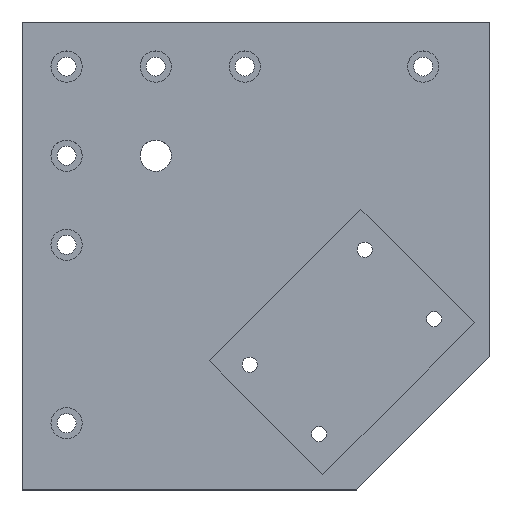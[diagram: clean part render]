
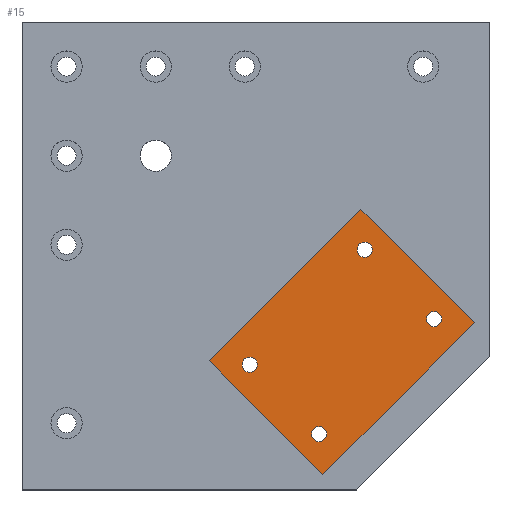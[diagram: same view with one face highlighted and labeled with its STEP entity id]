
A CAD part, top view. The second image highlights one B-rep face of the part: STEP entity #15.
In plain terms, the highlighted planar face has unit normal (0, 0, 1).
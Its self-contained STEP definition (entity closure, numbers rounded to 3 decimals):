
#15 = ADVANCED_FACE ( 'NONE', ( #1016, #615, #1171, #429, #303 ), #1005, .T. ) ;
#19 = VERTEX_POINT ( 'NONE', #320 ) ;
#34 = VERTEX_POINT ( 'NONE', #1571 ) ;
#54 = CIRCLE ( 'NONE', #783, 3.4 ) ;
#123 = CIRCLE ( 'NONE', #337, 3.4 ) ;
#128 = EDGE_CURVE ( 'NONE', #1595, #19, #1356, .T. ) ;
#134 = CARTESIAN_POINT ( 'NONE',  ( -2.81, -48.809, 3.5 ) ) ;
#143 = CARTESIAN_POINT ( 'NONE',  ( 79.922, -28.303, 3.5 ) ) ;
#154 = VERTEX_POINT ( 'NONE', #1772 ) ;
#173 = DIRECTION ( 'NONE',  ( 0.707, 0.707, 0. ) ) ;
#190 = VERTEX_POINT ( 'NONE', #1642 ) ;
#233 = DIRECTION ( 'NONE',  ( 0.707, -0.707, 0. ) ) ;
#266 = ORIENTED_EDGE ( 'NONE', *, *, #887, .T. ) ;
#270 = EDGE_CURVE ( 'NONE', #1609, #1415, #54, .T. ) ;
#275 = ORIENTED_EDGE ( 'NONE', *, *, #600, .T. ) ;
#303 = FACE_OUTER_BOUND ( 'NONE', #747, .T. ) ;
#320 = CARTESIAN_POINT ( 'NONE',  ( 47.112, 20.912, 3.5 ) ) ;
#337 = AXIS2_PLACEMENT_3D ( 'NONE', #1856, #446, #1041 ) ;
#359 = ORIENTED_EDGE ( 'NONE', *, *, #547, .F. ) ;
#393 = VECTOR ( 'NONE', #1790, 1000. ) ;
#394 = LINE ( 'NONE', #1097, #1022 ) ;
#429 = FACE_BOUND ( 'NONE', #978, .T. ) ;
#446 = DIRECTION ( 'NONE',  ( 0., 0., 1. ) ) ;
#451 = CIRCLE ( 'NONE', #518, 3.4 ) ;
#469 = DIRECTION ( 'NONE',  ( 1., 0., 0. ) ) ;
#489 = CIRCLE ( 'NONE', #1540, 3.4 ) ;
#518 = AXIS2_PLACEMENT_3D ( 'NONE', #1260, #1281, #984 ) ;
#547 = EDGE_CURVE ( 'NONE', #1313, #154, #1211, .T. ) ;
#581 = DIRECTION ( 'NONE',  ( 0., 0., 1. ) ) ;
#595 = CARTESIAN_POINT ( 'NONE',  ( 83.322, -28.303, 3.5 ) ) ;
#600 = EDGE_CURVE ( 'NONE', #1499, #1595, #936, .T. ) ;
#615 = FACE_BOUND ( 'NONE', #1495, .T. ) ;
#659 = EDGE_LOOP ( 'NONE', ( #359, #1798 ) ) ;
#747 = EDGE_LOOP ( 'NONE', ( #1761, #1245, #266, #275 ) ) ;
#759 = DIRECTION ( 'NONE',  ( 0., 0., 1. ) ) ;
#780 = DIRECTION ( 'NONE',  ( 1., 0., 0. ) ) ;
#783 = AXIS2_PLACEMENT_3D ( 'NONE', #1668, #1832, #1426 ) ;
#850 = CIRCLE ( 'NONE', #1423, 3.4 ) ;
#863 = DIRECTION ( 'NONE',  ( 0., 0., 1. ) ) ;
#877 = AXIS2_PLACEMENT_3D ( 'NONE', #134, #1007, #1721 ) ;
#886 = CARTESIAN_POINT ( 'NONE',  ( 0., 0., 3.5 ) ) ;
#887 = EDGE_CURVE ( 'NONE', #190, #1499, #394, .T. ) ;
#927 = ORIENTED_EDGE ( 'NONE', *, *, #1240, .F. ) ;
#929 = CARTESIAN_POINT ( 'NONE',  ( 98.024, -30., 3.5 ) ) ;
#936 = LINE ( 'NONE', #1778, #1703 ) ;
#944 = CARTESIAN_POINT ( 'NONE',  ( 28.303, -79.922, 3.5 ) ) ;
#950 = EDGE_CURVE ( 'NONE', #1833, #982, #1678, .T. ) ;
#951 = EDGE_CURVE ( 'NONE', #19, #190, #1737, .T. ) ;
#962 = AXIS2_PLACEMENT_3D ( 'NONE', #886, #1435, #1314 ) ;
#971 = AXIS2_PLACEMENT_3D ( 'NONE', #1591, #863, #469 ) ;
#978 = EDGE_LOOP ( 'NONE', ( #1399, #1283 ) ) ;
#982 = VERTEX_POINT ( 'NONE', #1188 ) ;
#984 = DIRECTION ( 'NONE',  ( 1., 0., 0. ) ) ;
#1005 = PLANE ( 'NONE',  #962 ) ;
#1007 = DIRECTION ( 'NONE',  ( 0., 0., 1. ) ) ;
#1010 = EDGE_CURVE ( 'NONE', #34, #1420, #489, .T. ) ;
#1011 = DIRECTION ( 'NONE',  ( 1., 0., 0. ) ) ;
#1016 = FACE_BOUND ( 'NONE', #659, .T. ) ;
#1022 = VECTOR ( 'NONE', #233, 1000. ) ;
#1034 = CARTESIAN_POINT ( 'NONE',  ( 47.112, 20.912, 3.5 ) ) ;
#1041 = DIRECTION ( 'NONE',  ( 1., 0., 0. ) ) ;
#1044 = DIRECTION ( 'NONE',  ( -0.707, -0.707, 0. ) ) ;
#1054 = ORIENTED_EDGE ( 'NONE', *, *, #1725, .F. ) ;
#1097 = CARTESIAN_POINT ( 'NONE',  ( -20.912, -47.112, 3.5 ) ) ;
#1171 = FACE_BOUND ( 'NONE', #1539, .T. ) ;
#1188 = CARTESIAN_POINT ( 'NONE',  ( 0.59, -48.809, 3.5 ) ) ;
#1211 = CIRCLE ( 'NONE', #1648, 3.4 ) ;
#1216 = VECTOR ( 'NONE', #1044, 1000. ) ;
#1233 = DIRECTION ( 'NONE',  ( 1., 0., 0. ) ) ;
#1240 = EDGE_CURVE ( 'NONE', #1420, #34, #451, .T. ) ;
#1245 = ORIENTED_EDGE ( 'NONE', *, *, #951, .T. ) ;
#1260 = CARTESIAN_POINT ( 'NONE',  ( 79.922, -28.303, 3.5 ) ) ;
#1267 = CARTESIAN_POINT ( 'NONE',  ( 45.409, 2.81, 3.5 ) ) ;
#1281 = DIRECTION ( 'NONE',  ( 0., 0., 1. ) ) ;
#1283 = ORIENTED_EDGE ( 'NONE', *, *, #1317, .F. ) ;
#1301 = CARTESIAN_POINT ( 'NONE',  ( 52.209, 2.81, 3.5 ) ) ;
#1303 = CIRCLE ( 'NONE', #877, 3.4 ) ;
#1313 = VERTEX_POINT ( 'NONE', #1446 ) ;
#1314 = DIRECTION ( 'NONE',  ( 1., 0., 0. ) ) ;
#1317 = EDGE_CURVE ( 'NONE', #1415, #1609, #123, .T. ) ;
#1343 = DIRECTION ( 'NONE',  ( 0., 0., 1. ) ) ;
#1356 = LINE ( 'NONE', #929, #393 ) ;
#1375 = CARTESIAN_POINT ( 'NONE',  ( 28.303, -79.922, 3.5 ) ) ;
#1399 = ORIENTED_EDGE ( 'NONE', *, *, #270, .F. ) ;
#1415 = VERTEX_POINT ( 'NONE', #1301 ) ;
#1420 = VERTEX_POINT ( 'NONE', #595 ) ;
#1423 = AXIS2_PLACEMENT_3D ( 'NONE', #944, #759, #780 ) ;
#1426 = DIRECTION ( 'NONE',  ( 1., 0., 0. ) ) ;
#1435 = DIRECTION ( 'NONE',  ( 0., 0., 1. ) ) ;
#1446 = CARTESIAN_POINT ( 'NONE',  ( 24.903, -79.922, 3.5 ) ) ;
#1462 = EDGE_CURVE ( 'NONE', #154, #1313, #850, .T. ) ;
#1495 = EDGE_LOOP ( 'NONE', ( #1771, #1054 ) ) ;
#1499 = VERTEX_POINT ( 'NONE', #1638 ) ;
#1539 = EDGE_LOOP ( 'NONE', ( #1671, #927 ) ) ;
#1540 = AXIS2_PLACEMENT_3D ( 'NONE', #143, #581, #1011 ) ;
#1571 = CARTESIAN_POINT ( 'NONE',  ( 76.522, -28.303, 3.5 ) ) ;
#1591 = CARTESIAN_POINT ( 'NONE',  ( -2.81, -48.809, 3.5 ) ) ;
#1595 = VERTEX_POINT ( 'NONE', #1804 ) ;
#1609 = VERTEX_POINT ( 'NONE', #1267 ) ;
#1638 = CARTESIAN_POINT ( 'NONE',  ( 30., -98.024, 3.5 ) ) ;
#1642 = CARTESIAN_POINT ( 'NONE',  ( -20.912, -47.112, 3.5 ) ) ;
#1648 = AXIS2_PLACEMENT_3D ( 'NONE', #1375, #1343, #1233 ) ;
#1668 = CARTESIAN_POINT ( 'NONE',  ( 48.809, 2.81, 3.5 ) ) ;
#1671 = ORIENTED_EDGE ( 'NONE', *, *, #1010, .F. ) ;
#1678 = CIRCLE ( 'NONE', #971, 3.4 ) ;
#1703 = VECTOR ( 'NONE', #173, 1000. ) ;
#1721 = DIRECTION ( 'NONE',  ( 1., 0., 0. ) ) ;
#1725 = EDGE_CURVE ( 'NONE', #982, #1833, #1303, .T. ) ;
#1737 = LINE ( 'NONE', #1034, #1216 ) ;
#1761 = ORIENTED_EDGE ( 'NONE', *, *, #128, .T. ) ;
#1762 = CARTESIAN_POINT ( 'NONE',  ( -6.21, -48.809, 3.5 ) ) ;
#1771 = ORIENTED_EDGE ( 'NONE', *, *, #950, .F. ) ;
#1772 = CARTESIAN_POINT ( 'NONE',  ( 31.703, -79.922, 3.5 ) ) ;
#1778 = CARTESIAN_POINT ( 'NONE',  ( 30., -98.024, 3.5 ) ) ;
#1790 = DIRECTION ( 'NONE',  ( -0.707, 0.707, 0. ) ) ;
#1798 = ORIENTED_EDGE ( 'NONE', *, *, #1462, .F. ) ;
#1804 = CARTESIAN_POINT ( 'NONE',  ( 98.024, -30., 3.5 ) ) ;
#1832 = DIRECTION ( 'NONE',  ( 0., 0., 1. ) ) ;
#1833 = VERTEX_POINT ( 'NONE', #1762 ) ;
#1856 = CARTESIAN_POINT ( 'NONE',  ( 48.809, 2.81, 3.5 ) ) ;
